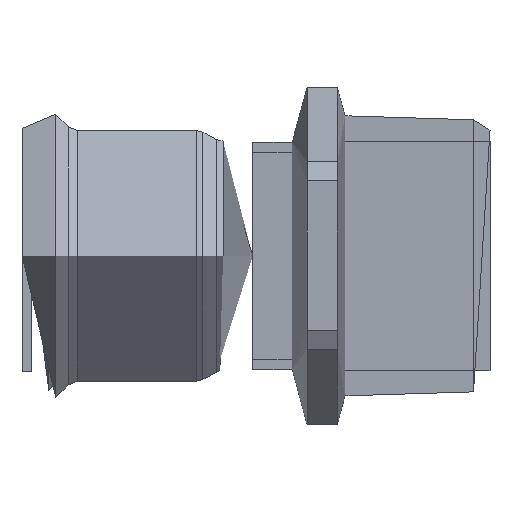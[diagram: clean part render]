
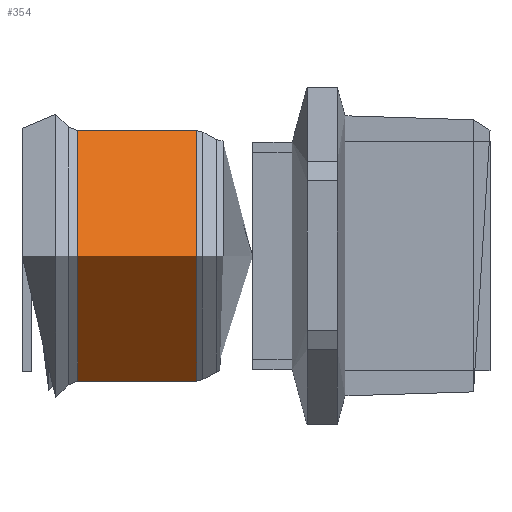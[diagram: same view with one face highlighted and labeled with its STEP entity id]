
A CAD part, top view. The second image highlights one B-rep face of the part: STEP entity #354.
In plain terms, the highlighted free-form (B-spline) face has degree [1, 2] with [2, 9] control points.
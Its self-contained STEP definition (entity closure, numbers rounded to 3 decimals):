
#294 = VERTEX_POINT('',#295);
#295 = CARTESIAN_POINT('',(26.5,0.,19.));
#301 = EDGE_CURVE('',#294,#302,#304,.T.);
#302 = VERTEX_POINT('',#303);
#303 = CARTESIAN_POINT('',(26.5,-19.,0.));
#304 = ( BOUNDED_CURVE() B_SPLINE_CURVE(2,(#305,#306,#307),
.UNSPECIFIED.,.F.,.F.) B_SPLINE_CURVE_WITH_KNOTS((3,3),(-1.571,
0.),.PIECEWISE_BEZIER_KNOTS.) CURVE() 
GEOMETRIC_REPRESENTATION_ITEM() RATIONAL_B_SPLINE_CURVE((1.,
0.707,1.)) REPRESENTATION_ITEM('') );
#305 = CARTESIAN_POINT('',(26.5,0.,19.));
#306 = CARTESIAN_POINT('',(26.5,-19.,19.));
#307 = CARTESIAN_POINT('',(26.5,-19.,0.));
#309 = EDGE_CURVE('',#302,#310,#312,.T.);
#310 = VERTEX_POINT('',#311);
#311 = CARTESIAN_POINT('',(26.5,19.,0.));
#312 = ( BOUNDED_CURVE() B_SPLINE_CURVE(2,(#313,#314,#315,#316,#317),
.UNSPECIFIED.,.F.,.F.) B_SPLINE_CURVE_WITH_KNOTS((3,2,3),(
    0.,1.571,3.142),.UNSPECIFIED.) 
CURVE() GEOMETRIC_REPRESENTATION_ITEM() RATIONAL_B_SPLINE_CURVE((1.,
0.707,1.,0.707,1.)) REPRESENTATION_ITEM('') );
#313 = CARTESIAN_POINT('',(26.5,-19.,0.));
#314 = CARTESIAN_POINT('',(26.5,-19.,-19.));
#315 = CARTESIAN_POINT('',(26.5,0.,-19.));
#316 = CARTESIAN_POINT('',(26.5,19.,-19.));
#317 = CARTESIAN_POINT('',(26.5,19.,0.));
#319 = EDGE_CURVE('',#310,#294,#320,.T.);
#320 = ( BOUNDED_CURVE() B_SPLINE_CURVE(2,(#321,#322,#323),
.UNSPECIFIED.,.F.,.F.) B_SPLINE_CURVE_WITH_KNOTS((3,3),(-3.142,
-1.571),.PIECEWISE_BEZIER_KNOTS.) CURVE() 
GEOMETRIC_REPRESENTATION_ITEM() RATIONAL_B_SPLINE_CURVE((1.,
0.707,1.)) REPRESENTATION_ITEM('') );
#321 = CARTESIAN_POINT('',(26.5,19.,0.));
#322 = CARTESIAN_POINT('',(26.5,19.,19.));
#323 = CARTESIAN_POINT('',(26.5,0.,19.));
#354 = ADVANCED_FACE('',(#355),#392,.T.);
#355 = FACE_BOUND('',#356,.T.);
#356 = EDGE_LOOP('',(#357,#358,#359,#366,#376,#384,#390,#391));
#357 = ORIENTED_EDGE('',*,*,#319,.F.);
#358 = ORIENTED_EDGE('',*,*,#309,.F.);
#359 = ORIENTED_EDGE('',*,*,#360,.T.);
#360 = EDGE_CURVE('',#302,#361,#363,.T.);
#361 = VERTEX_POINT('',#362);
#362 = CARTESIAN_POINT('',(8.421,-19.,0.));
#363 = B_SPLINE_CURVE_WITH_KNOTS('',1,(#364,#365),.UNSPECIFIED.,.F.,.F.,
  (2,2),(-0.463,0.489),.PIECEWISE_BEZIER_KNOTS.);
#364 = CARTESIAN_POINT('',(26.5,-19.,0.));
#365 = CARTESIAN_POINT('',(8.421,-19.,0.));
#366 = ORIENTED_EDGE('',*,*,#367,.T.);
#367 = EDGE_CURVE('',#361,#368,#370,.T.);
#368 = VERTEX_POINT('',#369);
#369 = CARTESIAN_POINT('',(8.421,19.,0.));
#370 = ( BOUNDED_CURVE() B_SPLINE_CURVE(2,(#371,#372,#373,#374,#375),
.UNSPECIFIED.,.F.,.F.) B_SPLINE_CURVE_WITH_KNOTS((3,2,3),(3.142,
4.712,6.283),.PIECEWISE_BEZIER_KNOTS.) CURVE() 
GEOMETRIC_REPRESENTATION_ITEM() RATIONAL_B_SPLINE_CURVE((1.,
0.707,1.,0.707,1.)) REPRESENTATION_ITEM('') );
#371 = CARTESIAN_POINT('',(8.421,-19.,0.));
#372 = CARTESIAN_POINT('',(8.421,-19.,-19.));
#373 = CARTESIAN_POINT('',(8.421,0.,-19.));
#374 = CARTESIAN_POINT('',(8.421,19.,-19.));
#375 = CARTESIAN_POINT('',(8.421,19.,0.));
#376 = ORIENTED_EDGE('',*,*,#377,.T.);
#377 = EDGE_CURVE('',#368,#378,#380,.T.);
#378 = VERTEX_POINT('',#379);
#379 = CARTESIAN_POINT('',(8.421,0.,19.));
#380 = ( BOUNDED_CURVE() B_SPLINE_CURVE(2,(#381,#382,#383),
.UNSPECIFIED.,.F.,.F.) B_SPLINE_CURVE_WITH_KNOTS((3,3),(0.,
1.571),.PIECEWISE_BEZIER_KNOTS.) CURVE() 
GEOMETRIC_REPRESENTATION_ITEM() RATIONAL_B_SPLINE_CURVE((1.,
0.707,1.)) REPRESENTATION_ITEM('') );
#381 = CARTESIAN_POINT('',(8.421,19.,0.));
#382 = CARTESIAN_POINT('',(8.421,19.,19.));
#383 = CARTESIAN_POINT('',(8.421,0.,19.));
#384 = ORIENTED_EDGE('',*,*,#385,.T.);
#385 = EDGE_CURVE('',#378,#361,#386,.T.);
#386 = ( BOUNDED_CURVE() B_SPLINE_CURVE(2,(#387,#388,#389),
.UNSPECIFIED.,.F.,.F.) B_SPLINE_CURVE_WITH_KNOTS((3,3),(1.571,
3.142),.PIECEWISE_BEZIER_KNOTS.) CURVE() 
GEOMETRIC_REPRESENTATION_ITEM() RATIONAL_B_SPLINE_CURVE((1.,
0.707,1.)) REPRESENTATION_ITEM('') );
#387 = CARTESIAN_POINT('',(8.421,0.,19.));
#388 = CARTESIAN_POINT('',(8.421,-19.,19.));
#389 = CARTESIAN_POINT('',(8.421,-19.,0.));
#390 = ORIENTED_EDGE('',*,*,#360,.F.);
#391 = ORIENTED_EDGE('',*,*,#301,.F.);
#392 = ( BOUNDED_SURFACE() B_SPLINE_SURFACE(1,2,(
    (#393,#394,#395,#396,#397,#398,#399,#400,#401)
    ,(#402,#403,#404,#405,#406,#407,#408,#409,#410
)),.UNSPECIFIED.,.F.,.T.,.F.) B_SPLINE_SURFACE_WITH_KNOTS((2,2),(1,2,2,2
    ,2,2,1),(-0.489,0.463),(-4.712,
    -3.142,-1.571,0.,1.571,3.142,
4.712),.UNSPECIFIED.) GEOMETRIC_REPRESENTATION_ITEM() 
RATIONAL_B_SPLINE_SURFACE((
    (1.,0.707,1.,0.707,1.,0.707,1.
      ,0.707,1.)
    ,(1.,0.707,1.,0.707,1.,0.707,1.
,0.707,1.))) REPRESENTATION_ITEM('') SURFACE() );
#393 = CARTESIAN_POINT('',(26.5,-19.,0.));
#394 = CARTESIAN_POINT('',(26.5,-19.,-19.));
#395 = CARTESIAN_POINT('',(26.5,0.,-19.));
#396 = CARTESIAN_POINT('',(26.5,19.,-19.));
#397 = CARTESIAN_POINT('',(26.5,19.,0.));
#398 = CARTESIAN_POINT('',(26.5,19.,19.));
#399 = CARTESIAN_POINT('',(26.5,0.,19.));
#400 = CARTESIAN_POINT('',(26.5,-19.,19.));
#401 = CARTESIAN_POINT('',(26.5,-19.,0.));
#402 = CARTESIAN_POINT('',(8.421,-19.,0.));
#403 = CARTESIAN_POINT('',(8.421,-19.,-19.));
#404 = CARTESIAN_POINT('',(8.421,0.,-19.));
#405 = CARTESIAN_POINT('',(8.421,19.,-19.));
#406 = CARTESIAN_POINT('',(8.421,19.,0.));
#407 = CARTESIAN_POINT('',(8.421,19.,19.));
#408 = CARTESIAN_POINT('',(8.421,0.,19.));
#409 = CARTESIAN_POINT('',(8.421,-19.,19.));
#410 = CARTESIAN_POINT('',(8.421,-19.,0.));
